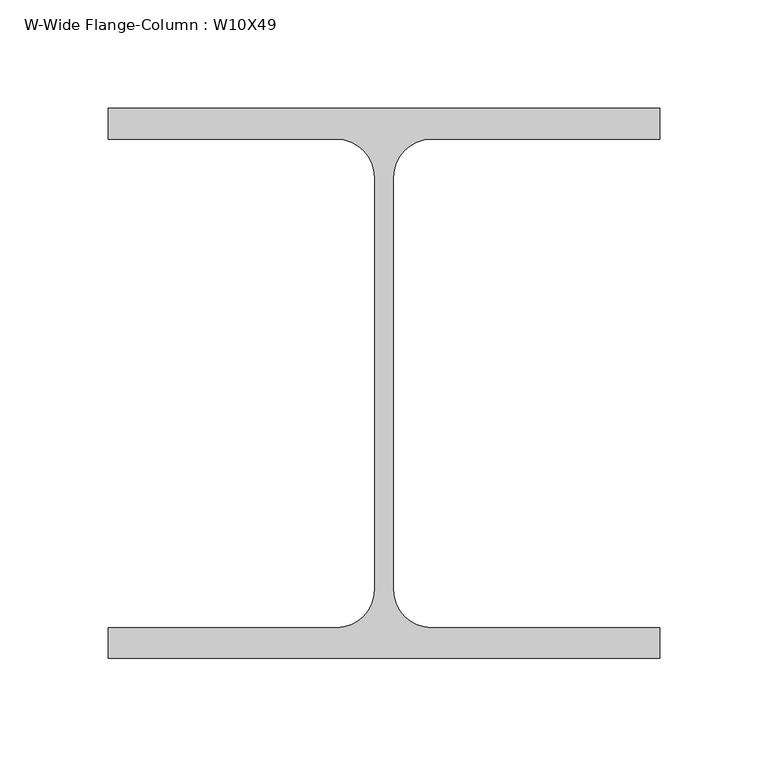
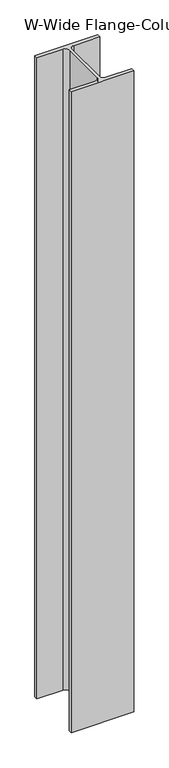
"""IFC4 building model written with IfcOpenShell, lengths in millimetres: column geometry, W-Wide Flange-Column : W10X49."""

from ifc_helpers import new_model, si_unit, point, frame, frame_2d, origin, place, context, project, spatial, polyline, circle_curve, trimmed, segment, composite_curve, outline, extrude, source, transform, mapped, element, save


def w_wide_flange_column_w10x49_e1ac2cb3(model_context):
    return source(origin(), model_context, "Body", "SweptSolid", [
        extrude(outline(composite_curve([segment(polyline([(127.0, 126.7519531), (127.0, 112.5636719), (21.8777344, 112.5636719)]), True, "CONTINUOUS"), segment(trimmed(circle_curve(frame_2d((21.8777344, 95.0019531)), 17.5617188), [point((21.8777344, 112.5636719))], [point((4.3160156, 95.0019531))], True, "CARTESIAN"), True, "CONTINUOUS"), segment(polyline([(4.3160156, 95.0019531), (4.3160156, -95.0019531)]), True, "CONTINUOUS"), segment(trimmed(circle_curve(frame_2d((21.8777344, -95.0019531)), 17.5617187), [point((4.3160156, -95.0019531))], [point((21.8777344, -112.5636719))], True, "CARTESIAN"), True, "CONTINUOUS"), segment(polyline([(21.8777344, -112.5636719), (127.0, -112.5636719), (127.0, -126.7519531), (-127.0, -126.7519531), (-127.0, -112.5636719), (-21.8777344, -112.5636719)]), True, "CONTINUOUS"), segment(trimmed(circle_curve(frame_2d((-21.8777344, -95.0019531)), 17.5617187), [point((-21.8777344, -112.5636719))], [point((-4.3160156, -95.0019531))], True, "CARTESIAN"), True, "CONTINUOUS"), segment(polyline([(-4.3160156, -95.0019531), (-4.3160156, 95.0019531)]), True, "CONTINUOUS"), segment(trimmed(circle_curve(frame_2d((-21.8777344, 95.0019531)), 17.5617188), [point((-4.3160156, 95.0019531))], [point((-21.8777344, 112.5636719))], True, "CARTESIAN"), True, "CONTINUOUS"), segment(polyline([(-21.8777344, 112.5636719), (-127.0, 112.5636719), (-127.0, 126.7519531), (127.0, 126.7519531)]), True, "CONTINUOUS")], self_intersect=False)), frame((0.0, 0.0, 304.8), z_axis=(0.0, 0.0, 1.0), x_axis=(1.0, 0.0, 0.0)), (0.0, 0.0, 1.0), 2743.2),
    ])


if __name__ == "__main__":
    model = new_model("IFC4")
    model_context = context("Model", 3, world=origin())
    ifc_project = project(units=[si_unit("LENGTHUNIT", "METRE", prefix="MILLI")], contexts=[model_context])
    site = spatial("IfcSite", under=ifc_project)
    building = spatial("IfcBuilding", under=site)
    placement = place(None, origin())
    w_wide_flange_column_w10x49_shape = w_wide_flange_column_w10x49_e1ac2cb3(model_context)
    element("IfcColumn", 1, ObjectType="W-Wide Flange-Column : W10X49", at=placement, inside=building, context=model_context, shape_type="MappedRepresentation", body=[
        mapped(w_wide_flange_column_w10x49_shape, transform((0.0, 0.0, 0.0), x_axis=(1.0, 0.0, 0.0), y_axis=(0.0, 1.0, 0.0), z_axis=(0.0, 0.0, 1.0))),
    ])
    save(model, "model.ifc")
